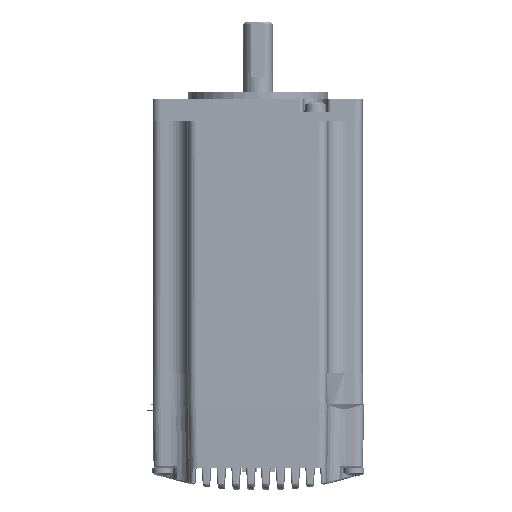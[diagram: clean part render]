
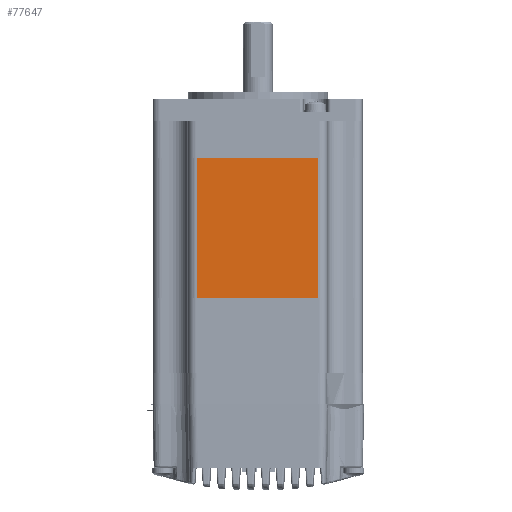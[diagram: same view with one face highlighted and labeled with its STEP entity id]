
A CAD part, top view. The second image highlights one B-rep face of the part: STEP entity #77647.
In plain terms, the highlighted planar face has unit normal (-0.003, 0, 1) as drawn and (0, 0, -1) by its records, which use the part's own axes.
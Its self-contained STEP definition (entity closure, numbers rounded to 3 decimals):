
#74274=DIRECTION('',(0.,-1.,0.));
#74275=VECTOR('',#74274,38.);
#74276=CARTESIAN_POINT('',(-16.5,39.,-28.5));
#74277=LINE('',#74276,#74275);
#74282=DIRECTION('',(-1.,0.,0.));
#74283=VECTOR('',#74282,33.);
#74284=CARTESIAN_POINT('',(16.5,1.,-28.5));
#74285=LINE('',#74284,#74283);
#74286=DIRECTION('',(1.,0.,0.));
#74287=VECTOR('',#74286,33.);
#74288=CARTESIAN_POINT('',(-16.5,39.,-28.5));
#74289=LINE('',#74288,#74287);
#74294=DIRECTION('',(0.,1.,0.));
#74295=VECTOR('',#74294,38.);
#74296=CARTESIAN_POINT('',(16.5,1.,-28.5));
#74297=LINE('',#74296,#74295);
#76480=CARTESIAN_POINT('',(-16.5,39.,-28.5));
#76482=VERTEX_POINT('',#76480);
#76500=CARTESIAN_POINT('',(16.5,1.,-28.5));
#76501=CARTESIAN_POINT('',(-16.5,1.,-28.5));
#76502=VERTEX_POINT('',#76500);
#76503=VERTEX_POINT('',#76501);
#76656=CARTESIAN_POINT('',(16.5,39.,-28.5));
#76657=VERTEX_POINT('',#76656);
#77634=CARTESIAN_POINT('',(-16.5,40.,-28.5));
#77635=DIRECTION('',(0.,0.,1.));
#77636=DIRECTION('',(1.,0.,0.));
#77637=AXIS2_PLACEMENT_3D('',#77634,#77635,#77636);
#77638=PLANE('',#77637);
#77639=ORIENTED_EDGE('',*,*,#77529,.F.);
#77641=ORIENTED_EDGE('',*,*,#77640,.T.);
#77643=ORIENTED_EDGE('',*,*,#77642,.F.);
#77644=ORIENTED_EDGE('',*,*,#77626,.T.);
#77645=EDGE_LOOP('',(#77639,#77641,#77643,#77644));
#77646=FACE_OUTER_BOUND('',#77645,.F.);
#77647=ADVANCED_FACE('',(#77646),#77638,.F.);
#77529=EDGE_CURVE('',#76502,#76503,#74285,.T.);
#77626=EDGE_CURVE('',#76482,#76503,#74277,.T.);
#77640=EDGE_CURVE('',#76502,#76657,#74297,.T.);
#77642=EDGE_CURVE('',#76482,#76657,#74289,.T.);
